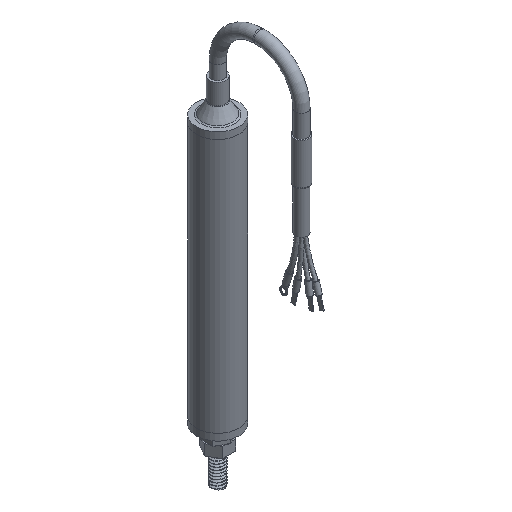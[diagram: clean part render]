
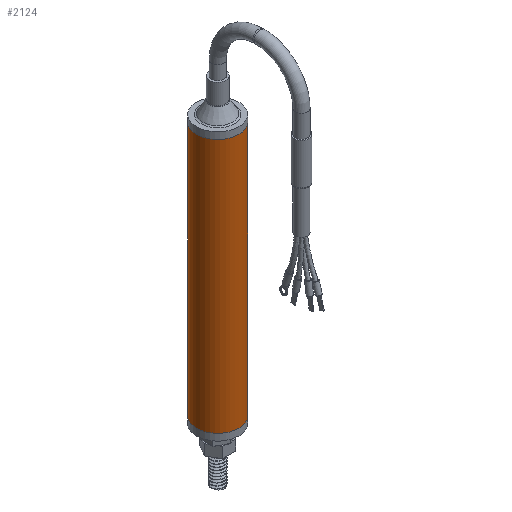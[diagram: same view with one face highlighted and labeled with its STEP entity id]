
A CAD part, isometric view. The second image highlights one B-rep face of the part: STEP entity #2124.
In plain terms, the highlighted cylindrical face has radius 6.35 mm (diameter 12.7 mm), a full revolution.
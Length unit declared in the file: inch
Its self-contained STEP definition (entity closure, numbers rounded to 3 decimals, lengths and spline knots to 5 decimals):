
#99=LINE('',#3341,#247);
#247=VECTOR('',#2737,0.25);
#394=CYLINDRICAL_SURFACE('',#2445,0.25);
#466=FACE_OUTER_BOUND('',#605,.T.);
#605=EDGE_LOOP('',(#1382,#1383,#1384,#1385,#1386));
#749=CIRCLE('',#2430,0.25);
#750=CIRCLE('',#2431,0.25);
#757=CIRCLE('',#2443,0.25);
#853=VERTEX_POINT('',#3312);
#854=VERTEX_POINT('',#3314);
#861=VERTEX_POINT('',#3336);
#1052=EDGE_CURVE('',#854,#853,#749,.T.);
#1053=EDGE_CURVE('',#853,#854,#750,.T.);
#1063=EDGE_CURVE('',#861,#861,#757,.T.);
#1064=EDGE_CURVE('',#861,#854,#99,.T.);
#1382=ORIENTED_EDGE('',*,*,#1063,.F.);
#1383=ORIENTED_EDGE('',*,*,#1064,.T.);
#1384=ORIENTED_EDGE('',*,*,#1052,.T.);
#1385=ORIENTED_EDGE('',*,*,#1053,.T.);
#1386=ORIENTED_EDGE('',*,*,#1064,.F.);
#2124=ADVANCED_FACE('',(#466),#394,.T.);
#2430=AXIS2_PLACEMENT_3D('',#3315,#2702,#2703);
#2431=AXIS2_PLACEMENT_3D('',#3316,#2704,#2705);
#2443=AXIS2_PLACEMENT_3D('',#3338,#2731,#2732);
#2445=AXIS2_PLACEMENT_3D('',#3340,#2735,#2736);
#2702=DIRECTION('center_axis',(0.,0.,-1.));
#2703=DIRECTION('ref_axis',(-1.,0.,0.));
#2704=DIRECTION('center_axis',(0.,0.,-1.));
#2705=DIRECTION('ref_axis',(-1.,0.,0.));
#2731=DIRECTION('center_axis',(0.,0.,-1.));
#2732=DIRECTION('ref_axis',(-1.,0.,0.));
#2735=DIRECTION('center_axis',(0.,0.,-1.));
#2736=DIRECTION('ref_axis',(-1.,0.,0.));
#2737=DIRECTION('',(0.,0.,1.));
#3312=CARTESIAN_POINT('',(0.,0.25,0.));
#3314=CARTESIAN_POINT('',(0.25,0.,0.));
#3315=CARTESIAN_POINT('Origin',(0.,0.,0.));
#3316=CARTESIAN_POINT('Origin',(0.,0.,0.));
#3336=CARTESIAN_POINT('',(0.25,0.,-2.99213));
#3338=CARTESIAN_POINT('Origin',(0.,0.,-2.99213));
#3340=CARTESIAN_POINT('Origin',(0.,0.,0.));
#3341=CARTESIAN_POINT('',(0.25,0.,0.));
